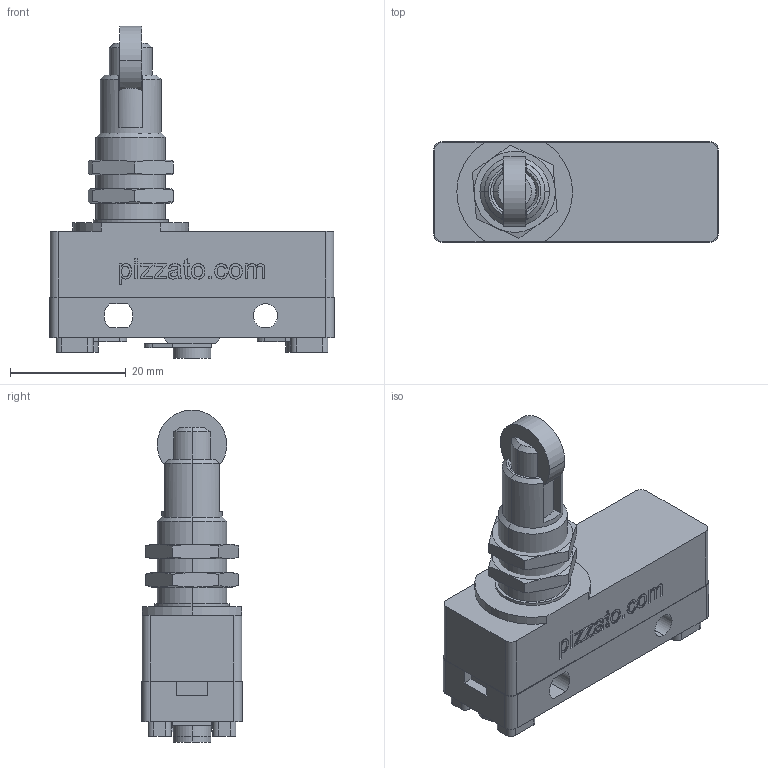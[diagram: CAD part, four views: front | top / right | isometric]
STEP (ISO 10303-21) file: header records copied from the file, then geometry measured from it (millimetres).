
FILE_DESCRIPTION (( 'STEP AP214' ), '1' );
FILE_NAME ('ZF_STEP_MS_17_.step', '2019-08-27T09:25:00', ( 'Pizzato Elettrica' ), ( 'Microsoft' ), 'SwSTEP 2.0', 'SolidWorks 2014', '' );
FILE_SCHEMA (( 'AUTOMOTIVE_DESIGN' ));
Length unit declared in the file: millimetre
Products named in the file (6): Pizzato_supporto+pistoncino_MS_17; Pizzato_Dado_83_83; Pizzato_Pistoncino_MS17; Pizzato_supporto pistoncino_MS_17_171; Pizzato_base 180_MS; ZF_STEP_MS_17_
Assembly tree (6 placements, depth 3):
  ZF_STEP_MS_17_
    Pizzato_base 180_MS
    Pizzato_supporto+pistoncino_MS_17
      Pizzato_supporto pistoncino_MS_17_171
      Pizzato_Pistoncino_MS17
      Pizzato_Dado_83_83  x2
Bounding box: 49.2 x 17.4 x 57.4 mm (x, y, z)
Volume: 19181.1 mm3; surface area: 9883.6 mm2
Topology: 6 solids, 6 shells, 374 faces, 952 edges, 624 vertices
Faces by surface type: plane 195, cylinder 76, bspline 69, cone 34
Entity records: 14393 total; most frequent: CARTESIAN_POINT 5947, ORIENTED_EDGE 1808, DIRECTION 1480, EDGE_CURVE 904, VERTEX_POINT 596, VECTOR 550, LINE 550, AXIS2_PLACEMENT_3D 465
